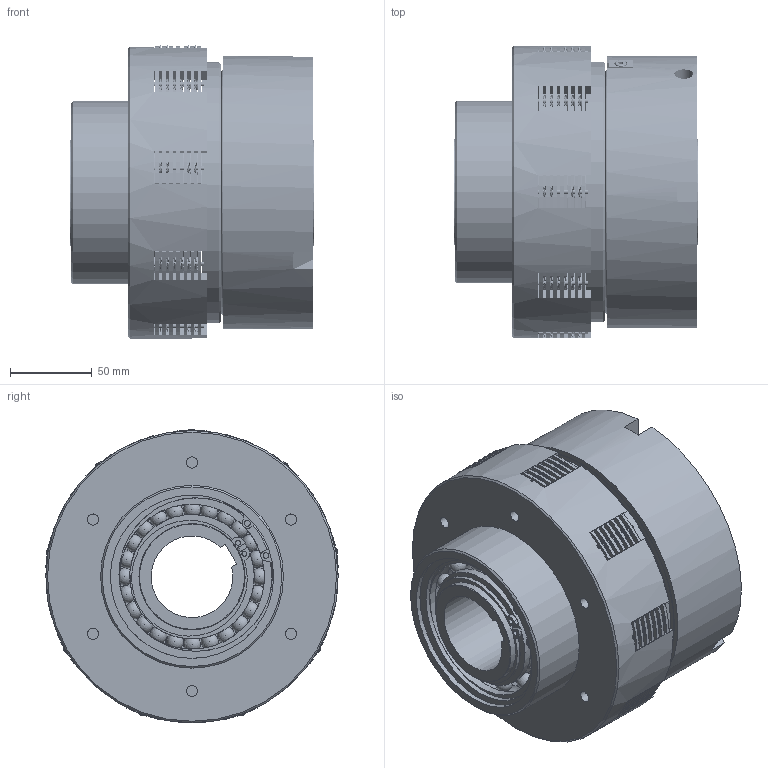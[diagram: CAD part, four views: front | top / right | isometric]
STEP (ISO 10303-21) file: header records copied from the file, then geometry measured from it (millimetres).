
FILE_DESCRIPTION((''),'2;1');
FILE_NAME('\\Srv-tecnico\dati\UFFICIO TECNICO\ARCHIVIO INVENTOR\DISEGNI\UFFICIO TECNICO\03_Friz_Oleodinamiche e Pneumatiche_Cilindro_Statico\03_06 LPR\03_06_008_01 LPR08\03_06_008_01 LPR08_Sostituto_1.stp','2012-12-12T12:16:46',('ivan'),(''),'Autodesk Inventor 2010','Autodesk Inventor 2010','');
FILE_SCHEMA(('CONFIG_CONTROL_DESIGN'));
Length unit declared in the file: millimetre
Products named in the file (1): 03_06_008_01 LPR08_Sostituto_1
Bounding box: 150 x 179.14 x 179.9 mm (x, y, z)
Volume: 2045193.1 mm3; surface area: 775981.9 mm2
Topology: 79 solids, 79 shells, 1320 faces, 4278 edges, 3085 vertices
Faces by surface type: plane 620, cylinder 338, torus 146, bspline 120, sphere 59, cone 37
Full cylindrical faces by diameter (mm): 2.4 x9, 2.75 x63, 4 x1, 7 x1, 11.445 x1, 62 x3, 65 x8, 72 x1, 76.2 x6, 88.8 x6, 90 x1, 91 x1, 96 x1, 100 x8, 102.5 x7, 103.5 x1, 110 x3, 112 x1, 119.5 x1, 120 x2, 125 x1, 129.6 x2, 130 x2, 132 x1, 140.4 x2, 142 x1, 150 x2, 155 x2, 158 x1, 160 x1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
Entity records: 71633 total; most frequent: CARTESIAN_POINT 36026, ORIENTED_EDGE 7442, DIRECTION 6510, EDGE_CURVE 3721, VERTEX_POINT 2856, AXIS2_PLACEMENT_3D 2517, EDGE_LOOP 2019, VECTOR 1476
